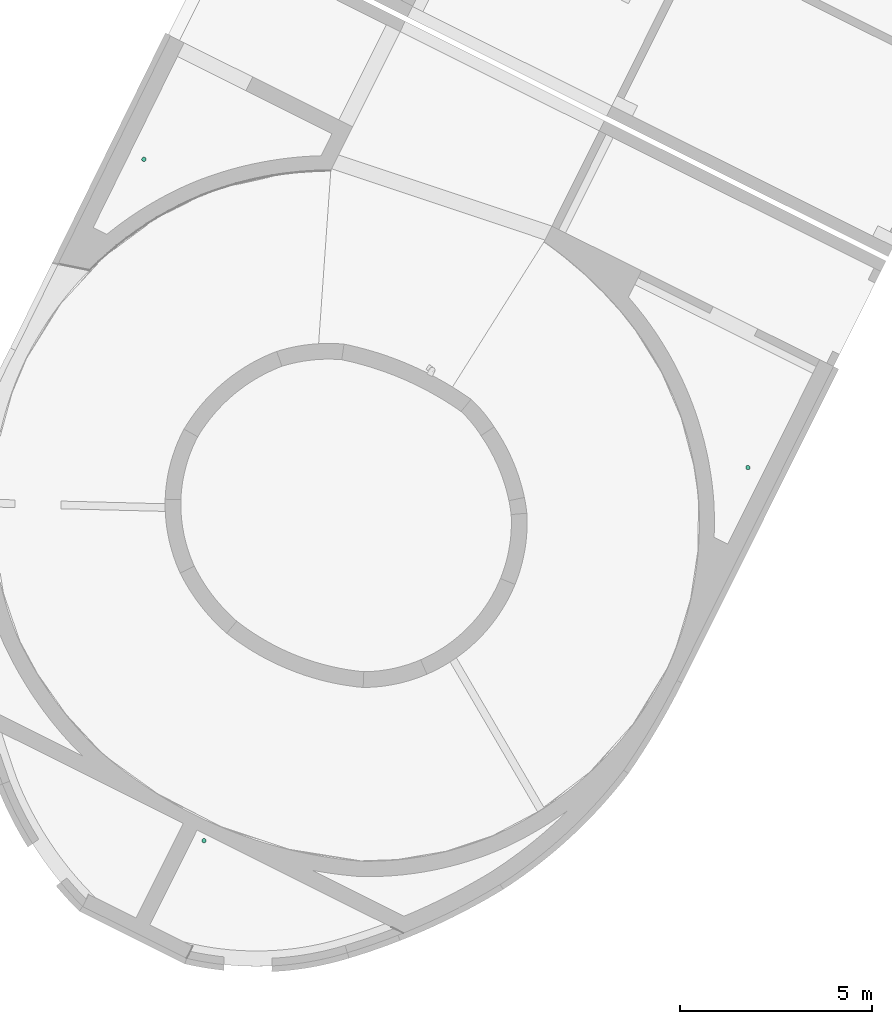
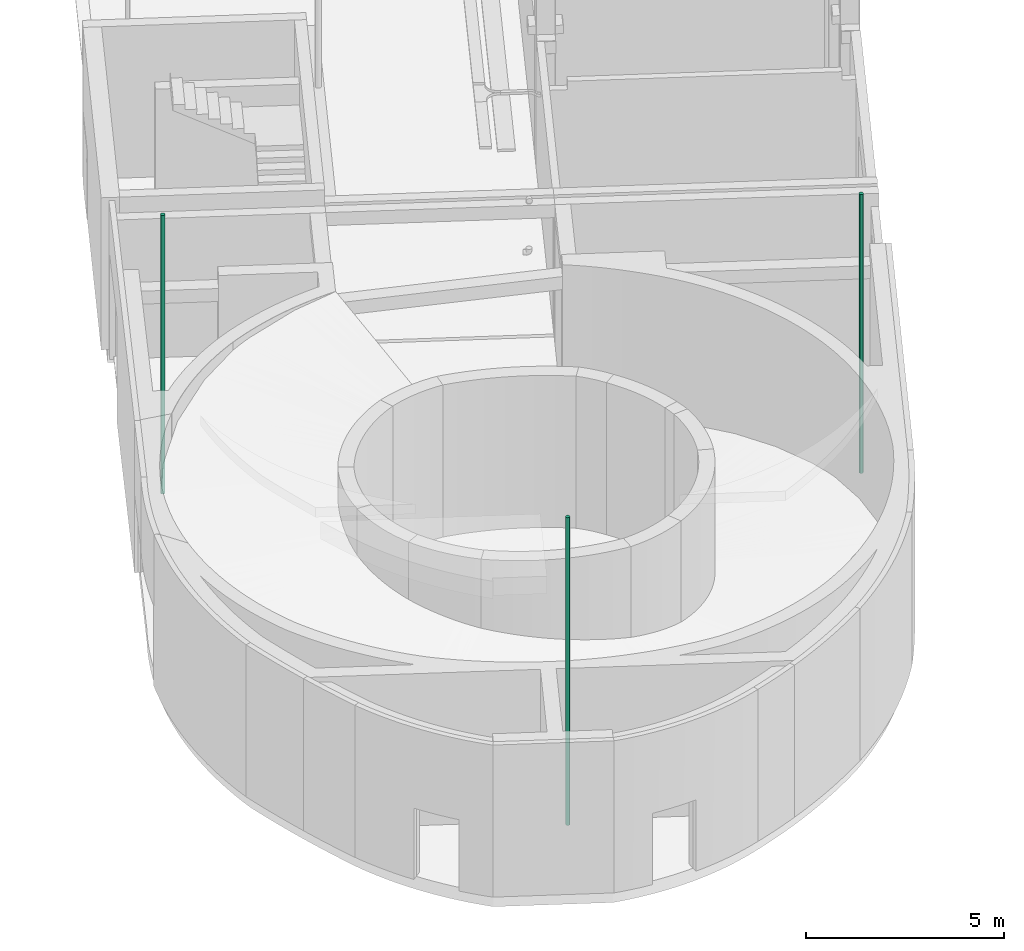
# One storey, part 57 of 91: 3 flow segments.
"""IFC2X3 building model written with IfcOpenShell, lengths in metres."""

from ifc_helpers import new_model, entity, si_unit, converted_unit, derived_unit, direction, frame, origin, origin_2d_with_axis, place, context, subcontext, project, spatial, circle, extrude, type_object, element, save


model = new_model("IFC2X3")

# Units and contexts
model_context = context("Model", 3, precision=1e-05, world=origin(), true_north=direction((0.894925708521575, 0.446215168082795)))
context_of_model = context(None, 3, precision=1e-05, world=origin(), true_north=direction((0.894925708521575, 0.446215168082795)))
body_context = subcontext(model_context, "Body", "Model", "MODEL_VIEW")
ifc_project = project(units=[si_unit("LENGTHUNIT", "METRE"), si_unit("AREAUNIT", "SQUARE_METRE"), si_unit("VOLUMEUNIT", "CUBIC_METRE"), converted_unit("PLANEANGLEUNIT", "DEGREE", entity("IfcRatioMeasure", 0.0174532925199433), si_unit("PLANEANGLEUNIT", "RADIAN"), dimensions=[0, 0, 0, 0, 0, 0, 0]), si_unit("MASSUNIT", "GRAM", prefix="KILO"), si_unit("TIMEUNIT", "SECOND"), si_unit("FREQUENCYUNIT", "HERTZ"), si_unit("THERMODYNAMICTEMPERATUREUNIT", "DEGREE_CELSIUS"), derived_unit("THERMALTRANSMITTANCEUNIT", [(si_unit("MASSUNIT", "GRAM", prefix="KILO"), 1), (si_unit("THERMODYNAMICTEMPERATUREUNIT", "KELVIN"), -1), (si_unit("TIMEUNIT", "SECOND"), -3)]), derived_unit("VOLUMETRICFLOWRATEUNIT", [(si_unit("LENGTHUNIT", "METRE"), 3), (si_unit("TIMEUNIT", "SECOND"), -1)]), si_unit("ELECTRICCURRENTUNIT", "AMPERE"), si_unit("ELECTRICVOLTAGEUNIT", "VOLT"), si_unit("POWERUNIT", "WATT"), si_unit("FORCEUNIT", "NEWTON", prefix="KILO"), si_unit("ILLUMINANCEUNIT", "LUX"), si_unit("LUMINOUSFLUXUNIT", "LUMEN"), si_unit("LUMINOUSINTENSITYUNIT", "CANDELA"), si_unit("PRESSUREUNIT", "PASCAL")], contexts=[model_context, context_of_model])

# Site, building, storey
site_placement = place(None, frame((218.228324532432, 584.720189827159, 0.0), z_axis=(0.0, 0.0, 1.0), x_axis=(0.446215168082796, 0.894925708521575, 0.0)))
site = spatial("IfcSite", under=ifc_project, at=site_placement, Name="Default", CompositionType="ELEMENT")
building_placement = place(site_placement, origin())
building = spatial("IfcBuilding", under=site, at=building_placement, CompositionType="ELEMENT")
storey_placement = place(building_placement, origin())
storey = spatial("IfcBuildingStorey", under=building, at=storey_placement, Name="0 - Piano Terra", CompositionType="ELEMENT", Elevation=0.0)

# Flow segments
pipe_segment_type = type_object("IfcPipeSegmentType", Name="Tubazione:Pluviale-Tubazione", PredefinedType="NOTDEFINED")
for number, where, name in (
    (1, (-66.9746880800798, 5.22957909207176, 0.0), "Tubazione:Pluviale-Tubazione"),
    (2, (-67.1385406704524, -12.4398242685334, 0.0), "Tubazione:Pluviale-Tubazione"),
):
    element("IfcFlowSegment", number, at=place(storey_placement, frame(where)), inside=storey, type_object=pipe_segment_type, Name=name, ObjectType="Tubazione:Pluviale-Tubazione", context=body_context, shape_type="SweptSolid", body=[
        extrude(circle(Radius=0.05715, at=origin_2d_with_axis()), frame((0.0587452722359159, 0.0587452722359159, 0.0)), (0.0, 0.0, 1.0), 8.6),
    ])
flow_segment_placement = place(storey_placement, frame((-82.1631046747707, -4.09434267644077, 0.0)))
element("IfcFlowSegment", 3, at=flow_segment_placement, inside=storey, type_object=pipe_segment_type, Name="Tubazione:Pluviale-Tubazione", ObjectType="Tubazione:Pluviale-Tubazione", context=body_context, shape_type="SweptSolid", body=[
    extrude(circle(Radius=0.05715, at=origin_2d_with_axis()), frame((0.0587452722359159, 0.0587452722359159, 0.0)), (0.0, 0.0, 1.0), 9.49),
])

save(model, "model.ifc")
